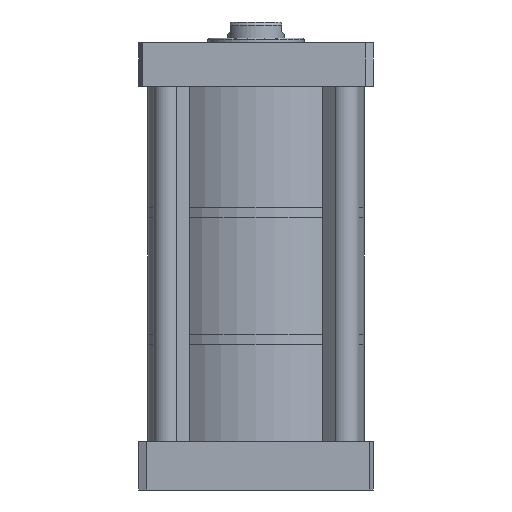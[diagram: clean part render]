
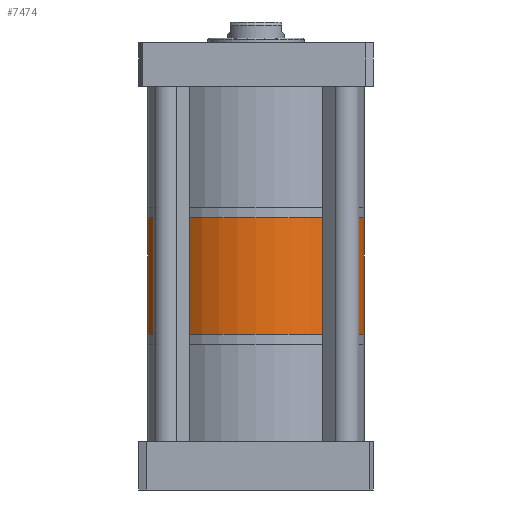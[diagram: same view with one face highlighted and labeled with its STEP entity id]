
A CAD part, front view. The second image highlights one B-rep face of the part: STEP entity #7474.
In plain terms, the highlighted cylindrical face has radius 67.5 mm (diameter 135 mm), a partial arc.
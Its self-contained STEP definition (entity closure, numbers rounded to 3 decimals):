
#101 = VERTEX_POINT ( 'NONE', #7700 ) ;
#295 = EDGE_CURVE ( 'NONE', #4563, #101, #5931, .T. ) ;
#327 = ORIENTED_EDGE ( 'NONE', *, *, #295, .T. ) ;
#1222 = CARTESIAN_POINT ( 'NONE',  ( -67.5, 0., -154.5 ) ) ;
#1448 = VECTOR ( 'NONE', #1917, 1000. ) ;
#1745 = DIRECTION ( 'NONE',  ( 0., 0., 1. ) ) ;
#1828 = CARTESIAN_POINT ( 'NONE',  ( 0., 0., -82. ) ) ;
#1917 = DIRECTION ( 'NONE',  ( 0., 0., 1. ) ) ;
#2145 = CARTESIAN_POINT ( 'NONE',  ( 0., 0., -154.5 ) ) ;
#2518 = DIRECTION ( 'NONE',  ( -1., 0., 0. ) ) ;
#3194 = EDGE_CURVE ( 'NONE', #101, #5112, #5871, .T. ) ;
#3303 = CARTESIAN_POINT ( 'NONE',  ( 67.5, 0., -154.5 ) ) ;
#3534 = DIRECTION ( 'NONE',  ( 1., 0., 0. ) ) ;
#3587 = AXIS2_PLACEMENT_3D ( 'NONE', #7805, #3713, #8515 ) ;
#3713 = DIRECTION ( 'NONE',  ( 0., 0., -1. ) ) ;
#3896 = VECTOR ( 'NONE', #1745, 1000. ) ;
#4210 = AXIS2_PLACEMENT_3D ( 'NONE', #2145, #7645, #3534 ) ;
#4563 = VERTEX_POINT ( 'NONE', #3303 ) ;
#4785 = CARTESIAN_POINT ( 'NONE',  ( -67.5, 0., -82. ) ) ;
#4862 = EDGE_CURVE ( 'NONE', #4563, #7333, #8048, .T. ) ;
#5112 = VERTEX_POINT ( 'NONE', #4785 ) ;
#5181 = CARTESIAN_POINT ( 'NONE',  ( 67.5, 0., -154.5 ) ) ;
#5210 = ORIENTED_EDGE ( 'NONE', *, *, #4862, .F. ) ;
#5313 = ORIENTED_EDGE ( 'NONE', *, *, #3194, .T. ) ;
#5871 = CIRCLE ( 'NONE', #6772, 67.5 ) ;
#5931 = LINE ( 'NONE', #5181, #3896 ) ;
#6108 = CYLINDRICAL_SURFACE ( 'NONE', #4210, 67.5 ) ;
#6334 = FACE_OUTER_BOUND ( 'NONE', #7707, .T. ) ;
#6628 = DIRECTION ( 'NONE',  ( 0., 0., -1. ) ) ;
#6715 = LINE ( 'NONE', #1222, #1448 ) ;
#6772 = AXIS2_PLACEMENT_3D ( 'NONE', #1828, #6628, #2518 ) ;
#6864 = EDGE_CURVE ( 'NONE', #7333, #5112, #6715, .T. ) ;
#7333 = VERTEX_POINT ( 'NONE', #8165 ) ;
#7474 = ADVANCED_FACE ( 'NONE', ( #6334 ), #6108, .T. ) ;
#7645 = DIRECTION ( 'NONE',  ( 0., 0., 1. ) ) ;
#7671 = ORIENTED_EDGE ( 'NONE', *, *, #6864, .F. ) ;
#7700 = CARTESIAN_POINT ( 'NONE',  ( 67.5, 0., -82. ) ) ;
#7707 = EDGE_LOOP ( 'NONE', ( #7671, #5210, #327, #5313 ) ) ;
#7805 = CARTESIAN_POINT ( 'NONE',  ( 0., 0., -154.5 ) ) ;
#8048 = CIRCLE ( 'NONE', #3587, 67.5 ) ;
#8165 = CARTESIAN_POINT ( 'NONE',  ( -67.5, 0., -154.5 ) ) ;
#8515 = DIRECTION ( 'NONE',  ( -1., 0., 0. ) ) ;
